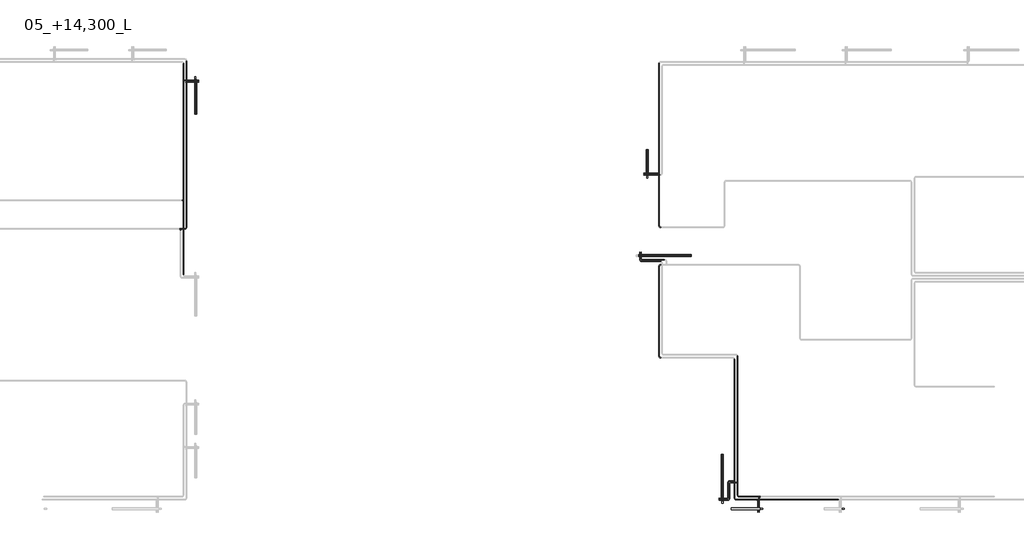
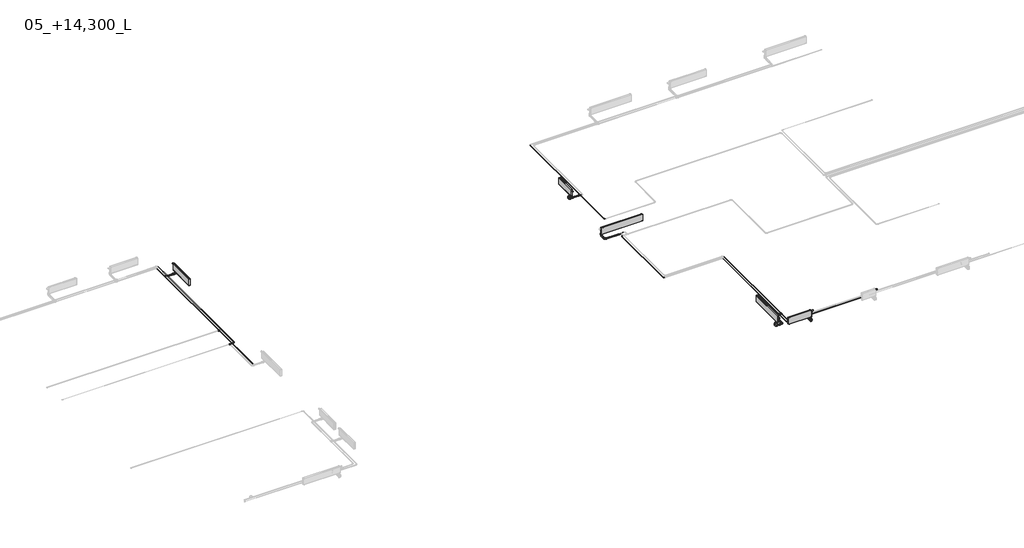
# One storey, part 6 of 15: 32 pipe segments, 31 pipe fittings, 5 proxies, 5 valves.
"""IFC4 building model written with IfcOpenShell, lengths in millimetres."""

from ifc_helpers import new_model, si_unit, point, frame, frame_2d, origin, place, context, project, spatial, circle_curve, trimmed, segment, composite_curve, outline, extrude, transform, mapped, element, save
from components import mechanical_equipment_c0c35615, mechanical_equipment_da64a6a1, mechanical_equipment_054ffeb9, mechanical_equipment_91f7fb6e, mechanical_equipment_6df30eec, pipe_fitting_44bd76dc, pipe_fitting_8f811e63, pipe_fitting_d927fdfb, valve_f5090433, valve_73842d38, valve_8453c3c0, valve_3b1922a4, valve_18af1cec

model = new_model("IFC4")

# Units and contexts
model_context = context("Model", 3, world=origin())
ifc_project = project(units=[si_unit("LENGTHUNIT", "METRE", prefix="MILLI")], contexts=[model_context])

# Site, building, storey
site = spatial("IfcSite", under=ifc_project)
building = spatial("IfcBuilding", under=site)
storey = spatial("IfcBuildingStorey", under=building, Name="05_+14,300_L", Elevation=14300.0)

# Proxies
placement = place(None, origin())
mechanical_equipment_shape = mechanical_equipment_c0c35615(model_context)
element("IfcBuildingElementProxy", 1, Name="EVRA CV Д : 21-300-1600", ObjectType="EVRA CV Д : 21-300-1600", at=placement, inside=storey, context=model_context, shape_type="MappedRepresentation", body=[
    mapped(mechanical_equipment_shape, transform((50061.4631102, 113460.2677163, 14300.0), x_axis=(0.0, 1.0, 0.0), y_axis=(-1.0, 0.0, 0.0), z_axis=(0.0, 0.0, 1.0))),
])
mechanical_equipment_2_shape = mechanical_equipment_da64a6a1(model_context)
element("IfcBuildingElementProxy", 2, Name="EVRA CV Д : 21-300-1200", ObjectType="EVRA CV Д : 21-300-1200", at=placement, inside=storey, context=model_context, shape_type="MappedRepresentation", body=[
    mapped(mechanical_equipment_2_shape, transform((31938.5368898, 127000.0, 14300.0), x_axis=(0.0, -1.0, 0.0), y_axis=(1.0, 0.0, 0.0), z_axis=(0.0, 0.0, 1.0))),
])
mechanical_equipment_3_shape = mechanical_equipment_054ffeb9(model_context)
element("IfcBuildingElementProxy", 3, Name="EVRA CV Д : 21-300-1000", ObjectType="EVRA CV Д : 21-300-1000", at=placement, inside=storey, context=model_context, shape_type="MappedRepresentation", body=[
    mapped(mechanical_equipment_3_shape, transform((51080.0, 112561.4631102, 14300.0), x_axis=(-1.0, 0.0, 0.0), y_axis=(0.0, -1.0, 0.0), z_axis=(0.0, 0.0, 1.0))),
])
mechanical_equipment_4_shape = mechanical_equipment_91f7fb6e(model_context)
element("IfcBuildingElementProxy", 4, Name="EVRA CV Д : 21-300-900", ObjectType="EVRA CV Д : 21-300-900", at=placement, inside=storey, context=model_context, shape_type="MappedRepresentation", body=[
    mapped(mechanical_equipment_4_shape, transform((47461.4631102, 124330.0000002, 14300.0), x_axis=(0.0, 1.0, 0.0), y_axis=(-1.0, 0.0, 0.0), z_axis=(0.0, 0.0, 1.0))),
])
mechanical_equipment_5_shape = mechanical_equipment_6df30eec(model_context)
element("IfcBuildingElementProxy", 5, Name="EVRA CV Д : 21-300-1800", ObjectType="EVRA CV Д : 21-300-1800", at=placement, inside=storey, context=model_context, shape_type="MappedRepresentation", body=[
    mapped(mechanical_equipment_5_shape, transform((47902.548164, 121338.53689, 14300.0), x_axis=(1.0, 0.0, 0.0), y_axis=(0.0, 1.0, 0.0), z_axis=(0.0, 0.0, 1.0))),
])

# Pipe fittings
pipe_fitting_shape = pipe_fitting_44bd76dc(model_context)
element("IfcPipeFitting", 6, ObjectType="ADSK_Пресс-фитинг ПЭ_Тройник : Пластик черный", at=placement, inside=storey, context=model_context, shape_type="MappedRepresentation", body=[
    mapped(pipe_fitting_shape, transform((31400.0000006, 122240.0, 14250.0), x_axis=(-1.0, 0.0, 0.0), y_axis=(0.0, 1.0, 0.0), z_axis=(0.0, 0.0, -1.0))),
])
element("IfcPipeFitting", 7, ObjectType="ADSK_Пресс-фитинг ПЭ_Тройник : Пластик черный", at=placement, inside=storey, context=model_context, shape_type="MappedRepresentation", body=[
    mapped(pipe_fitting_shape, transform((31600.0000006, 127320.0, 14250.0), x_axis=(0.0, -1.0, 0.0), y_axis=(-1.0, 0.0, 0.0), z_axis=(0.0, 0.0, -1.0))),
])
element("IfcPipeFitting", 8, ObjectType="ADSK_Пресс-фитинг ПЭ_Тройник : Пластик черный", at=placement, inside=storey, context=model_context, shape_type="MappedRepresentation", body=[
    mapped(pipe_fitting_shape, transform((31500.0000006, 127370.0, 14250.0), x_axis=(0.0, 1.0, 0.0), y_axis=(-1.0, 0.0, 0.0), z_axis=(0.0, 0.0, 1.0))),
])
element("IfcPipeFitting", 9, ObjectType="ADSK_Пресс-фитинг ПЭ_Тройник : Пластик черный", at=placement, inside=storey, context=model_context, shape_type="MappedRepresentation", body=[
    mapped(pipe_fitting_shape, transform((50499.9999998, 113540.2677163, 14250.0), x_axis=(0.0, -1.0, 0.0), y_axis=(1.0, 0.0, 0.0), z_axis=(0.0, 0.0, 1.0))),
])
element("IfcPipeFitting", 10, ObjectType="ADSK_Пресс-фитинг ПЭ_Тройник : Пластик черный", at=placement, inside=storey, context=model_context, shape_type="MappedRepresentation", body=[
    mapped(pipe_fitting_shape, transform((50599.9999998, 113490.2677163, 14250.0), x_axis=(0.0, -1.0, 0.0), y_axis=(1.0, 0.0, 0.0), z_axis=(0.0, 0.0, 1.0))),
])
element("IfcPipeFitting", 11, ObjectType="ADSK_Пресс-фитинг ПЭ_Тройник : Пластик черный", at=placement, inside=storey, context=model_context, shape_type="MappedRepresentation", body=[
    mapped(pipe_fitting_shape, transform((47900.0, 124160.0000002, 14250.0), x_axis=(0.0, 1.0, 0.0), y_axis=(1.0, 0.0, 0.0), z_axis=(0.0, 0.0, -1.0))),
])
element("IfcPipeFitting", 12, ObjectType="ADSK_Пресс-фитинг ПЭ_Тройник : Пластик черный", at=placement, inside=storey, context=model_context, shape_type="MappedRepresentation", body=[
    mapped(pipe_fitting_shape, transform((51350.0, 113000.0, 14250.0), x_axis=(1.0, 0.0, 0.0), y_axis=(0.0, 1.0, 0.0), z_axis=(0.0, 0.0, 1.0))),
])
element("IfcPipeFitting", 13, ObjectType="ADSK_Пресс-фитинг ПЭ_Тройник : Пластик черный", at=placement, inside=storey, context=model_context, shape_type="MappedRepresentation", body=[
    mapped(pipe_fitting_shape, transform((51300.0, 112900.0, 14250.0), x_axis=(1.0, 0.0, 0.0), y_axis=(0.0, 1.0, 0.0), z_axis=(0.0, 0.0, 1.0))),
])
element("IfcPipeFitting", 14, ObjectType="ADSK_Пресс-фитинг ПЭ_Тройник : Пластик черный", at=placement, inside=storey, context=model_context, shape_type="MappedRepresentation", body=[
    mapped(pipe_fitting_shape, transform((31500.0000006, 123228.4031807, 14250.0), x_axis=(0.0, 1.0, 0.0), y_axis=(1.0, 0.0, 0.0), z_axis=(0.0, 0.0, -1.0))),
])
pipe_fitting_2_shape = pipe_fitting_8f811e63(model_context)
element("IfcPipeFitting", 15, ObjectType="ADSK_Пресс-фитинг ПЭ_Поворот с фиксатором : Поворот трубы", at=placement, inside=storey, context=model_context, shape_type="MappedRepresentation", body=[
    mapped(pipe_fitting_2_shape, transform((31600.0000006, 122240.0, 14250.0), x_axis=(1.0, 0.0, 0.0), y_axis=(0.0, 1.0, 0.0), z_axis=(0.0, 0.0, 1.0))),
])
element("IfcPipeFitting", 16, ObjectType="ADSK_Пресс-фитинг ПЭ_Поворот с фиксатором : Поворот трубы", at=placement, inside=storey, context=model_context, shape_type="MappedRepresentation", body=[
    mapped(pipe_fitting_2_shape, transform((50599.9999998, 113000.0, 14250.0), x_axis=(0.0, -1.0, 0.0), y_axis=(1.0, 0.0, 0.0), z_axis=(0.0, 0.0, 1.0))),
])
element("IfcPipeFitting", 17, ObjectType="ADSK_Пресс-фитинг ПЭ_Поворот с фиксатором : Поворот трубы", at=placement, inside=storey, context=model_context, shape_type="MappedRepresentation", body=[
    mapped(pipe_fitting_2_shape, transform((50499.9999998, 112900.0, 14250.0), x_axis=(0.0, -1.0, 0.0), y_axis=(1.0, 0.0, 0.0), z_axis=(0.0, 0.0, 1.0))),
])
element("IfcPipeFitting", 18, ObjectType="ADSK_Пресс-фитинг ПЭ_Поворот с фиксатором : Поворот трубы", at=placement, inside=storey, context=model_context, shape_type="MappedRepresentation", body=[
    mapped(pipe_fitting_2_shape, transform((50277.0, 113540.2677163, 14250.0), x_axis=(-1.0, 0.0, 0.0), y_axis=(0.0, -1.0, 0.0), z_axis=(0.0, 0.0, 1.0))),
])
element("IfcPipeFitting", 19, ObjectType="ADSK_Пресс-фитинг ПЭ_Поворот с фиксатором : Поворот трубы", at=placement, inside=storey, context=model_context, shape_type="MappedRepresentation", body=[
    mapped(pipe_fitting_2_shape, transform((50327.0, 113490.2677163, 14250.0), x_axis=(-1.0, 0.0, 0.0), y_axis=(0.0, -1.0, 0.0), z_axis=(0.0, 0.0, 1.0))),
])
element("IfcPipeFitting", 20, ObjectType="ADSK_Пресс-фитинг ПЭ_Поворот с фиксатором : Поворот трубы", at=placement, inside=storey, context=model_context, shape_type="MappedRepresentation", body=[
    mapped(pipe_fitting_2_shape, transform((47900.0, 122300.0, 14250.0), x_axis=(0.0, -1.0, 0.0), y_axis=(1.0, 0.0, 0.0), z_axis=(0.0, 0.0, 1.0))),
])
element("IfcPipeFitting", 21, ObjectType="ADSK_Пресс-фитинг ПЭ_Поворот с фиксатором : Поворот трубы", at=placement, inside=storey, context=model_context, shape_type="MappedRepresentation", body=[
    mapped(pipe_fitting_2_shape, transform((47900.0, 121000.0000002, 14250.0), x_axis=(-1.0, 0.0, 0.0), y_axis=(0.0, -1.0, 0.0), z_axis=(0.0, 0.0, 1.0))),
])
element("IfcPipeFitting", 22, ObjectType="ADSK_Пресс-фитинг ПЭ_Поворот с фиксатором : Поворот трубы", at=placement, inside=storey, context=model_context, shape_type="MappedRepresentation", body=[
    mapped(pipe_fitting_2_shape, transform((47282.548164, 121173.0000002, 14250.0), x_axis=(0.0, -1.0, 0.0), y_axis=(1.0, 0.0, 0.0), z_axis=(0.0, 0.0, 1.0))),
])
element("IfcPipeFitting", 23, ObjectType="ADSK_Пресс-фитинг ПЭ_Поворот с фиксатором : Поворот трубы", at=placement, inside=storey, context=model_context, shape_type="MappedRepresentation", body=[
    mapped(pipe_fitting_2_shape, transform((47232.548164, 121123.0000002, 14250.0), x_axis=(0.0, -1.0, 0.0), y_axis=(1.0, 0.0, 0.0), z_axis=(0.0, 0.0, 1.0))),
])
element("IfcPipeFitting", 24, ObjectType="ADSK_Пресс-фитинг ПЭ_Поворот с фиксатором : Поворот трубы", at=placement, inside=storey, context=model_context, shape_type="MappedRepresentation", body=[
    mapped(pipe_fitting_2_shape, transform((47900.0, 117800.0000002, 14250.0), x_axis=(0.0, -1.0, 0.0), y_axis=(1.0, 0.0, 0.0), z_axis=(0.0, 0.0, 1.0))),
])
element("IfcPipeFitting", 25, ObjectType="ADSK_Пресс-фитинг ПЭ_Поворот с фиксатором : Поворот трубы", at=placement, inside=storey, context=model_context, shape_type="MappedRepresentation", body=[
    mapped(pipe_fitting_2_shape, transform((50277.0, 112940.2677163, 14250.0), x_axis=(1.0, 0.0, 0.0), y_axis=(0.0, 1.0, 0.0), z_axis=(0.0, 0.0, 1.0))),
])
element("IfcPipeFitting", 26, ObjectType="ADSK_Пресс-фитинг ПЭ_Поворот с фиксатором : Поворот трубы", at=placement, inside=storey, context=model_context, shape_type="MappedRepresentation", body=[
    mapped(pipe_fitting_2_shape, transform((50327.0, 112890.2677163, 14250.0), x_axis=(1.0, 0.0, 0.0), y_axis=(0.0, 1.0, 0.0), z_axis=(0.0, 0.0, 1.0))),
])
pipe_fitting_3_shape = pipe_fitting_d927fdfb(model_context)
element("IfcPipeFitting", 27, ObjectType="Трубка Г-образная VTm.481.PC из стены : VTm.481.PC", at=placement, inside=storey, context=model_context, shape_type="MappedRepresentation", body=[
    mapped(pipe_fitting_3_shape, transform((31988.0, 127370.0, 14250.0), x_axis=(0.0, -1.0, 0.0), y_axis=(1.0, 0.0, 0.0), z_axis=(0.0, 0.0, 1.0))),
])
element("IfcPipeFitting", 28, ObjectType="Трубка Г-образная VTm.481.PC из стены : VTm.481.PC", at=placement, inside=storey, context=model_context, shape_type="MappedRepresentation", body=[
    mapped(pipe_fitting_3_shape, transform((51350.0, 112512.0, 14250.0), x_axis=(-1.0, 0.0, 0.0), y_axis=(0.0, -1.0, 0.0), z_axis=(0.0, 0.0, 1.0))),
])
element("IfcPipeFitting", 29, ObjectType="Трубка Г-образная VTm.481.PC из стены : VTm.481.PC", at=placement, inside=storey, context=model_context, shape_type="MappedRepresentation", body=[
    mapped(pipe_fitting_3_shape, transform((50012.0, 112890.2677163, 14250.0), x_axis=(0.0, 1.0, 0.0), y_axis=(-1.0, 0.0, 0.0), z_axis=(0.0, 0.0, 1.0))),
])
element("IfcPipeFitting", 30, ObjectType="Трубка Г-образная VTm.481.PC из стены : VTm.481.PC", at=placement, inside=storey, context=model_context, shape_type="MappedRepresentation", body=[
    mapped(pipe_fitting_3_shape, transform((47232.548164, 121388.0000002, 14250.0), x_axis=(1.0, 0.0, 0.0), y_axis=(0.0, 1.0, 0.0), z_axis=(0.0, 0.0, 1.0))),
])
element("IfcPipeFitting", 31, ObjectType="Трубка Г-образная VTm.481.PC из стены : VTm.481.PC", at=placement, inside=storey, context=model_context, shape_type="MappedRepresentation", body=[
    mapped(pipe_fitting_3_shape, transform((47412.0, 124110.0000002, 14250.0), x_axis=(0.0, 1.0, 0.0), y_axis=(-1.0, 0.0, 0.0), z_axis=(0.0, 0.0, 1.0))),
])
element("IfcPipeFitting", 32, ObjectType="Трубка Г-образная VTm.481.PC из стены : VTm.481.PC", at=placement, inside=storey, context=model_context, shape_type="MappedRepresentation", body=[
    mapped(pipe_fitting_3_shape, transform((31988.0, 127320.0, 14250.0), x_axis=(0.0, -1.0, 0.0), y_axis=(1.0, 0.0, 0.0), z_axis=(0.0, 0.0, 1.0))),
])
element("IfcPipeFitting", 33, ObjectType="Трубка Г-образная VTm.481.PC из стены : VTm.481.PC", at=placement, inside=storey, context=model_context, shape_type="MappedRepresentation", body=[
    mapped(pipe_fitting_3_shape, transform((51300.0, 112512.0, 14250.0), x_axis=(-1.0, 0.0, 0.0), y_axis=(0.0, -1.0, 0.0), z_axis=(0.0, 0.0, 1.0))),
])
element("IfcPipeFitting", 34, ObjectType="Трубка Г-образная VTm.481.PC из стены : VTm.481.PC", at=placement, inside=storey, context=model_context, shape_type="MappedRepresentation", body=[
    mapped(pipe_fitting_3_shape, transform((50012.0, 112940.2677163, 14250.0), x_axis=(0.0, 1.0, 0.0), y_axis=(-1.0, 0.0, 0.0), z_axis=(0.0, 0.0, 1.0))),
])
element("IfcPipeFitting", 35, ObjectType="Трубка Г-образная VTm.481.PC из стены : VTm.481.PC", at=placement, inside=storey, context=model_context, shape_type="MappedRepresentation", body=[
    mapped(pipe_fitting_3_shape, transform((47282.548164, 121388.0000002, 14250.0), x_axis=(1.0, 0.0, 0.0), y_axis=(0.0, 1.0, 0.0), z_axis=(0.0, 0.0, 1.0))),
])
element("IfcPipeFitting", 36, ObjectType="Трубка Г-образная VTm.481.PC из стены : VTm.481.PC", at=placement, inside=storey, context=model_context, shape_type="MappedRepresentation", body=[
    mapped(pipe_fitting_3_shape, transform((47412.0, 124160.0000002, 14250.0), x_axis=(0.0, 1.0, 0.0), y_axis=(-1.0, 0.0, 0.0), z_axis=(0.0, 0.0, 1.0))),
])

# Pipe segments
element("IfcPipeSegment", 37, ObjectType="ADSK_Полиэтилен сшитый", at=placement, inside=storey, context=model_context, shape_type="SweptSolid", body=[
    extrude(outline(composite_curve([segment(trimmed(circle_curve(frame_2d((14250.0, 31600.0000006)), 8.0), [point((14250.0, 31608.0000006))], [point((14258.0, 31600.0000006))], False, "CARTESIAN"), True, "CONTINUOUS"), segment(trimmed(circle_curve(frame_2d((14250.0, 31600.0000006)), 8.0), [point((14258.0, 31600.0000006))], [point((14250.0, 31592.0000006))], False, "CARTESIAN"), True, "CONTINUOUS"), segment(trimmed(circle_curve(frame_2d((14250.0, 31600.0000006)), 8.0), [point((14250.0, 31592.0000006))], [point((14242.0, 31600.0000006))], False, "CARTESIAN"), True, "CONTINUOUS"), segment(trimmed(circle_curve(frame_2d((14250.0, 31600.0000006)), 8.0), [point((14242.0, 31600.0000006))], [point((14250.0, 31608.0000006))], False, "CARTESIAN"), True, "CONTINUOUS")], self_intersect=False)), frame((0.0, 127340.0, 0.0), z_axis=(0.0, 1.0, 0.0), x_axis=(0.0, 0.0, 1.0)), (0.0, 0.0, 1.0), 712.0),
])
element("IfcPipeSegment", 38, ObjectType="ADSK_Полиэтилен сшитый", at=placement, inside=storey, context=model_context, shape_type="SweptSolid", body=[
    extrude(outline(composite_curve([segment(trimmed(circle_curve(frame_2d((122240.0, 14250.0)), 8.0), [point((122232.0, 14250.0))], [point((122240.0, 14258.0))], False, "CARTESIAN"), True, "CONTINUOUS"), segment(trimmed(circle_curve(frame_2d((122240.0, 14250.0)), 8.0), [point((122240.0, 14258.0))], [point((122248.0, 14250.0))], False, "CARTESIAN"), True, "CONTINUOUS"), segment(trimmed(circle_curve(frame_2d((122240.0, 14250.0)), 8.0), [point((122248.0, 14250.0))], [point((122240.0, 14242.0))], False, "CARTESIAN"), True, "CONTINUOUS"), segment(trimmed(circle_curve(frame_2d((122240.0, 14250.0)), 8.0), [point((122240.0, 14242.0))], [point((122232.0, 14250.0))], False, "CARTESIAN"), True, "CONTINUOUS")], self_intersect=False)), frame((31420.0000006, 0.0, 0.0), z_axis=(1.0, 0.0, 0.0), x_axis=(0.0, 1.0, 0.0)), (0.0, 0.0, 1.0), 132.0),
])
element("IfcPipeSegment", 39, ObjectType="ADSK_Полиэтилен сшитый", at=placement, inside=storey, context=model_context, shape_type="SweptSolid", body=[
    extrude(outline(composite_curve([segment(trimmed(circle_curve(frame_2d((14250.0, 31500.0000006)), 8.0), [point((14250.0, 31492.0000006))], [point((14242.0, 31500.0000006))], False, "CARTESIAN"), True, "CONTINUOUS"), segment(trimmed(circle_curve(frame_2d((14250.0, 31500.0000006)), 8.0), [point((14242.0, 31500.0000006))], [point((14250.0, 31508.0000006))], False, "CARTESIAN"), True, "CONTINUOUS"), segment(trimmed(circle_curve(frame_2d((14250.0, 31500.0000006)), 8.0), [point((14250.0, 31508.0000006))], [point((14258.0, 31500.0000006))], False, "CARTESIAN"), True, "CONTINUOUS"), segment(trimmed(circle_curve(frame_2d((14250.0, 31500.0000006)), 8.0), [point((14258.0, 31500.0000006))], [point((14250.0, 31492.0000006))], False, "CARTESIAN"), True, "CONTINUOUS")], self_intersect=False)), frame((0.0, 120658.0000002, 0.0), z_axis=(0.0, 1.0, 0.0), x_axis=(0.0, 0.0, 1.0)), (0.0, 0.0, 1.0), 2548.4031805),
])
element("IfcPipeSegment", 40, ObjectType="ADSK_Полиэтилен сшитый", at=placement, inside=storey, context=model_context, shape_type="SweptSolid", body=[
    extrude(outline(composite_curve([segment(trimmed(circle_curve(frame_2d((127320.0, 14250.0)), 8.0), [point((127312.0, 14250.0))], [point((127320.0, 14258.0))], False, "CARTESIAN"), True, "CONTINUOUS"), segment(trimmed(circle_curve(frame_2d((127320.0, 14250.0)), 8.0), [point((127320.0, 14258.0))], [point((127328.0, 14250.0))], False, "CARTESIAN"), True, "CONTINUOUS"), segment(trimmed(circle_curve(frame_2d((127320.0, 14250.0)), 8.0), [point((127328.0, 14250.0))], [point((127320.0, 14242.0))], False, "CARTESIAN"), True, "CONTINUOUS"), segment(trimmed(circle_curve(frame_2d((127320.0, 14250.0)), 8.0), [point((127320.0, 14242.0))], [point((127312.0, 14250.0))], False, "CARTESIAN"), True, "CONTINUOUS")], self_intersect=False)), frame((31624.0000006, 0.0, 0.0), z_axis=(1.0, 0.0, 0.0), x_axis=(0.0, 1.0, 0.0)), (0.0, 0.0, 1.0), 248.9999994),
])
element("IfcPipeSegment", 41, ObjectType="ADSK_Полиэтилен сшитый", at=placement, inside=storey, context=model_context, shape_type="SweptSolid", body=[
    extrude(outline(composite_curve([segment(trimmed(circle_curve(frame_2d((14250.0, 31600.0000006)), 8.0), [point((14250.0, 31608.0000006))], [point((14258.0, 31600.0000006))], False, "CARTESIAN"), True, "CONTINUOUS"), segment(trimmed(circle_curve(frame_2d((14250.0, 31600.0000006)), 8.0), [point((14258.0, 31600.0000006))], [point((14250.0, 31592.0000006))], False, "CARTESIAN"), True, "CONTINUOUS"), segment(trimmed(circle_curve(frame_2d((14250.0, 31600.0000006)), 8.0), [point((14250.0, 31592.0000006))], [point((14242.0, 31600.0000006))], False, "CARTESIAN"), True, "CONTINUOUS"), segment(trimmed(circle_curve(frame_2d((14250.0, 31600.0000006)), 8.0), [point((14242.0, 31600.0000006))], [point((14250.0, 31608.0000006))], False, "CARTESIAN"), True, "CONTINUOUS")], self_intersect=False)), frame((0.0, 122288.0, 0.0), z_axis=(0.0, 1.0, 0.0), x_axis=(0.0, 0.0, 1.0)), (0.0, 0.0, 1.0), 5012.0),
])
element("IfcPipeSegment", 42, ObjectType="ADSK_Полиэтилен сшитый", at=placement, inside=storey, context=model_context, shape_type="SweptSolid", body=[
    extrude(outline(composite_curve([segment(trimmed(circle_curve(frame_2d((127370.0, 14250.0)), 8.0), [point((127362.0, 14250.0))], [point((127370.0, 14258.0))], False, "CARTESIAN"), True, "CONTINUOUS"), segment(trimmed(circle_curve(frame_2d((127370.0, 14250.0)), 8.0), [point((127370.0, 14258.0))], [point((127378.0, 14250.0))], False, "CARTESIAN"), True, "CONTINUOUS"), segment(trimmed(circle_curve(frame_2d((127370.0, 14250.0)), 8.0), [point((127378.0, 14250.0))], [point((127370.0, 14242.0))], False, "CARTESIAN"), True, "CONTINUOUS"), segment(trimmed(circle_curve(frame_2d((127370.0, 14250.0)), 8.0), [point((127370.0, 14242.0))], [point((127362.0, 14250.0))], False, "CARTESIAN"), True, "CONTINUOUS")], self_intersect=False)), frame((31524.0000006, 0.0, 0.0), z_axis=(1.0, 0.0, 0.0), x_axis=(0.0, 1.0, 0.0)), (0.0, 0.0, 1.0), 348.9999994),
])
element("IfcPipeSegment", 43, ObjectType="ADSK_Полиэтилен сшитый", at=placement, inside=storey, context=model_context, shape_type="SweptSolid", body=[
    extrude(outline(composite_curve([segment(trimmed(circle_curve(frame_2d((14250.0, 31500.0000006)), 8.0), [point((14250.0, 31492.0000006))], [point((14242.0, 31500.0000006))], False, "CARTESIAN"), True, "CONTINUOUS"), segment(trimmed(circle_curve(frame_2d((14250.0, 31500.0000006)), 8.0), [point((14242.0, 31500.0000006))], [point((14250.0, 31508.0000006))], False, "CARTESIAN"), True, "CONTINUOUS"), segment(trimmed(circle_curve(frame_2d((14250.0, 31500.0000006)), 8.0), [point((14250.0, 31508.0000006))], [point((14258.0, 31500.0000006))], False, "CARTESIAN"), True, "CONTINUOUS"), segment(trimmed(circle_curve(frame_2d((14250.0, 31500.0000006)), 8.0), [point((14258.0, 31500.0000006))], [point((14250.0, 31492.0000006))], False, "CARTESIAN"), True, "CONTINUOUS")], self_intersect=False)), frame((0.0, 127390.0, 0.0), z_axis=(0.0, 1.0, 0.0), x_axis=(0.0, 0.0, 1.0)), (0.0, 0.0, 1.0), 562.0),
])
element("IfcPipeSegment", 44, ObjectType="ADSK_Полиэтилен сшитый", at=placement, inside=storey, context=model_context, shape_type="SweptSolid", body=[
    extrude(outline(composite_curve([segment(trimmed(circle_curve(frame_2d((14250.0, 50499.9999998)), 8.0), [point((14250.0, 50491.9999998))], [point((14242.0, 50499.9999998))], False, "CARTESIAN"), True, "CONTINUOUS"), segment(trimmed(circle_curve(frame_2d((14250.0, 50499.9999998)), 8.0), [point((14242.0, 50499.9999998))], [point((14250.0, 50507.9999998))], False, "CARTESIAN"), True, "CONTINUOUS"), segment(trimmed(circle_curve(frame_2d((14250.0, 50499.9999998)), 8.0), [point((14250.0, 50507.9999998))], [point((14258.0, 50499.9999998))], False, "CARTESIAN"), True, "CONTINUOUS"), segment(trimmed(circle_curve(frame_2d((14250.0, 50499.9999998)), 8.0), [point((14258.0, 50499.9999998))], [point((14250.0, 50491.9999998))], False, "CARTESIAN"), True, "CONTINUOUS")], self_intersect=False)), frame((0.0, 112948.0, 0.0), z_axis=(0.0, 1.0, 0.0), x_axis=(0.0, 0.0, 1.0)), (0.0, 0.0, 1.0), 573.2677163),
])
element("IfcPipeSegment", 45, ObjectType="ADSK_Полиэтилен сшитый", at=placement, inside=storey, context=model_context, shape_type="SweptSolid", body=[
    extrude(outline(composite_curve([segment(trimmed(circle_curve(frame_2d((14250.0, 47900.0)), 8.0), [point((14250.0, 47892.0))], [point((14242.0, 47900.0))], False, "CARTESIAN"), True, "CONTINUOUS"), segment(trimmed(circle_curve(frame_2d((14250.0, 47900.0)), 8.0), [point((14242.0, 47900.0))], [point((14250.0, 47908.0))], False, "CARTESIAN"), True, "CONTINUOUS"), segment(trimmed(circle_curve(frame_2d((14250.0, 47900.0)), 8.0), [point((14250.0, 47908.0))], [point((14258.0, 47900.0))], False, "CARTESIAN"), True, "CONTINUOUS"), segment(trimmed(circle_curve(frame_2d((14250.0, 47900.0)), 8.0), [point((14258.0, 47900.0))], [point((14250.0, 47892.0))], False, "CARTESIAN"), True, "CONTINUOUS")], self_intersect=False)), frame((0.0, 122348.0, 0.0), z_axis=(0.0, 1.0, 0.0), x_axis=(0.0, 0.0, 1.0)), (0.0, 0.0, 1.0), 1792.0000002),
])
element("IfcPipeSegment", 46, ObjectType="ADSK_Полиэтилен сшитый", at=placement, inside=storey, context=model_context, shape_type="SweptSolid", body=[
    extrude(outline(composite_curve([segment(trimmed(circle_curve(frame_2d((14250.0, 51350.0)), 8.0), [point((14250.0, 51342.0))], [point((14242.0, 51350.0))], False, "CARTESIAN"), True, "CONTINUOUS"), segment(trimmed(circle_curve(frame_2d((14250.0, 51350.0)), 8.0), [point((14242.0, 51350.0))], [point((14250.0, 51358.0))], False, "CARTESIAN"), True, "CONTINUOUS"), segment(trimmed(circle_curve(frame_2d((14250.0, 51350.0)), 8.0), [point((14250.0, 51358.0))], [point((14258.0, 51350.0))], False, "CARTESIAN"), True, "CONTINUOUS"), segment(trimmed(circle_curve(frame_2d((14250.0, 51350.0)), 8.0), [point((14258.0, 51350.0))], [point((14250.0, 51342.0))], False, "CARTESIAN"), True, "CONTINUOUS")], self_intersect=False)), frame((0.0, 112627.0, 0.0), z_axis=(0.0, 1.0, 0.0), x_axis=(0.0, 0.0, 1.0)), (0.0, 0.0, 1.0), 349.0),
])
element("IfcPipeSegment", 47, ObjectType="ADSK_Полиэтилен сшитый", at=placement, inside=storey, context=model_context, shape_type="SweptSolid", body=[
    extrude(outline(composite_curve([segment(trimmed(circle_curve(frame_2d((113000.0, 14250.0)), 8.0), [point((113008.0, 14250.0))], [point((113000.0, 14242.0))], False, "CARTESIAN"), True, "CONTINUOUS"), segment(trimmed(circle_curve(frame_2d((113000.0, 14250.0)), 8.0), [point((113000.0, 14242.0))], [point((112992.0, 14250.0))], False, "CARTESIAN"), True, "CONTINUOUS"), segment(trimmed(circle_curve(frame_2d((113000.0, 14250.0)), 8.0), [point((112992.0, 14250.0))], [point((113000.0, 14258.0))], False, "CARTESIAN"), True, "CONTINUOUS"), segment(trimmed(circle_curve(frame_2d((113000.0, 14250.0)), 8.0), [point((113000.0, 14258.0))], [point((113008.0, 14250.0))], False, "CARTESIAN"), True, "CONTINUOUS")], self_intersect=False)), frame((50647.9999998, 0.0, 0.0), z_axis=(1.0, 0.0, 0.0), x_axis=(0.0, 1.0, 0.0)), (0.0, 0.0, 1.0), 682.0000002),
])
element("IfcPipeSegment", 48, ObjectType="ADSK_Полиэтилен сшитый", at=placement, inside=storey, context=model_context, shape_type="SweptSolid", body=[
    extrude(outline(composite_curve([segment(trimmed(circle_curve(frame_2d((14250.0, 51300.0)), 8.0), [point((14250.0, 51292.0))], [point((14242.0, 51300.0))], False, "CARTESIAN"), True, "CONTINUOUS"), segment(trimmed(circle_curve(frame_2d((14250.0, 51300.0)), 8.0), [point((14242.0, 51300.0))], [point((14250.0, 51308.0))], False, "CARTESIAN"), True, "CONTINUOUS"), segment(trimmed(circle_curve(frame_2d((14250.0, 51300.0)), 8.0), [point((14250.0, 51308.0))], [point((14258.0, 51300.0))], False, "CARTESIAN"), True, "CONTINUOUS"), segment(trimmed(circle_curve(frame_2d((14250.0, 51300.0)), 8.0), [point((14258.0, 51300.0))], [point((14250.0, 51292.0))], False, "CARTESIAN"), True, "CONTINUOUS")], self_intersect=False)), frame((0.0, 112627.0, 0.0), z_axis=(0.0, 1.0, 0.0), x_axis=(0.0, 0.0, 1.0)), (0.0, 0.0, 1.0), 249.0),
])
element("IfcPipeSegment", 49, ObjectType="ADSK_Полиэтилен сшитый", at=placement, inside=storey, context=model_context, shape_type="SweptSolid", body=[
    extrude(outline(composite_curve([segment(trimmed(circle_curve(frame_2d((112940.2677163, 14250.0)), 8.0), [point((112948.2677163, 14250.0))], [point((112940.2677163, 14242.0))], False, "CARTESIAN"), True, "CONTINUOUS"), segment(trimmed(circle_curve(frame_2d((112940.2677163, 14250.0)), 8.0), [point((112940.2677163, 14242.0))], [point((112932.2677163, 14250.0))], False, "CARTESIAN"), True, "CONTINUOUS"), segment(trimmed(circle_curve(frame_2d((112940.2677163, 14250.0)), 8.0), [point((112932.2677163, 14250.0))], [point((112940.2677163, 14258.0))], False, "CARTESIAN"), True, "CONTINUOUS"), segment(trimmed(circle_curve(frame_2d((112940.2677163, 14250.0)), 8.0), [point((112940.2677163, 14258.0))], [point((112948.2677163, 14250.0))], False, "CARTESIAN"), True, "CONTINUOUS")], self_intersect=False)), frame((50127.0, 0.0, 0.0), z_axis=(1.0, 0.0, 0.0), x_axis=(0.0, 1.0, 0.0)), (0.0, 0.0, 1.0), 102.0),
])
element("IfcPipeSegment", 50, ObjectType="ADSK_Полиэтилен сшитый", at=placement, inside=storey, context=model_context, shape_type="SweptSolid", body=[
    extrude(outline(composite_curve([segment(trimmed(circle_curve(frame_2d((14250.0, 50277.0)), 8.0), [point((14250.0, 50285.0))], [point((14258.0, 50277.0))], False, "CARTESIAN"), True, "CONTINUOUS"), segment(trimmed(circle_curve(frame_2d((14250.0, 50277.0)), 8.0), [point((14258.0, 50277.0))], [point((14250.0, 50269.0))], False, "CARTESIAN"), True, "CONTINUOUS"), segment(trimmed(circle_curve(frame_2d((14250.0, 50277.0)), 8.0), [point((14250.0, 50269.0))], [point((14242.0, 50277.0))], False, "CARTESIAN"), True, "CONTINUOUS"), segment(trimmed(circle_curve(frame_2d((14250.0, 50277.0)), 8.0), [point((14242.0, 50277.0))], [point((14250.0, 50285.0))], False, "CARTESIAN"), True, "CONTINUOUS")], self_intersect=False)), frame((0.0, 112988.2677163, 0.0), z_axis=(0.0, 1.0, 0.0), x_axis=(0.0, 0.0, 1.0)), (0.0, 0.0, 1.0), 504.0),
])
element("IfcPipeSegment", 51, ObjectType="ADSK_Полиэтилен сшитый", at=placement, inside=storey, context=model_context, shape_type="SweptSolid", body=[
    extrude(outline(composite_curve([segment(trimmed(circle_curve(frame_2d((113540.2677163, 14250.0)), 8.0), [point((113548.2677163, 14250.0))], [point((113540.2677163, 14242.0))], False, "CARTESIAN"), True, "CONTINUOUS"), segment(trimmed(circle_curve(frame_2d((113540.2677163, 14250.0)), 8.0), [point((113540.2677163, 14242.0))], [point((113532.2677163, 14250.0))], False, "CARTESIAN"), True, "CONTINUOUS"), segment(trimmed(circle_curve(frame_2d((113540.2677163, 14250.0)), 8.0), [point((113532.2677163, 14250.0))], [point((113540.2677163, 14258.0))], False, "CARTESIAN"), True, "CONTINUOUS"), segment(trimmed(circle_curve(frame_2d((113540.2677163, 14250.0)), 8.0), [point((113540.2677163, 14258.0))], [point((113548.2677163, 14250.0))], False, "CARTESIAN"), True, "CONTINUOUS")], self_intersect=False)), frame((50325.0, 0.0, 0.0), z_axis=(1.0, 0.0, 0.0), x_axis=(0.0, 1.0, 0.0)), (0.0, 0.0, 1.0), 148.9999998),
])
element("IfcPipeSegment", 52, ObjectType="ADSK_Полиэтилен сшитый", at=placement, inside=storey, context=model_context, shape_type="SweptSolid", body=[
    extrude(outline(composite_curve([segment(trimmed(circle_curve(frame_2d((112890.2677163, 14250.0)), 8.0), [point((112898.2677163, 14250.0))], [point((112890.2677163, 14242.0))], False, "CARTESIAN"), True, "CONTINUOUS"), segment(trimmed(circle_curve(frame_2d((112890.2677163, 14250.0)), 8.0), [point((112890.2677163, 14242.0))], [point((112882.2677163, 14250.0))], False, "CARTESIAN"), True, "CONTINUOUS"), segment(trimmed(circle_curve(frame_2d((112890.2677163, 14250.0)), 8.0), [point((112882.2677163, 14250.0))], [point((112890.2677163, 14258.0))], False, "CARTESIAN"), True, "CONTINUOUS"), segment(trimmed(circle_curve(frame_2d((112890.2677163, 14250.0)), 8.0), [point((112890.2677163, 14258.0))], [point((112898.2677163, 14250.0))], False, "CARTESIAN"), True, "CONTINUOUS")], self_intersect=False)), frame((50127.0, 0.0, 0.0), z_axis=(1.0, 0.0, 0.0), x_axis=(0.0, 1.0, 0.0)), (0.0, 0.0, 1.0), 152.0),
])
element("IfcPipeSegment", 53, ObjectType="ADSK_Полиэтилен сшитый", at=placement, inside=storey, context=model_context, shape_type="SweptSolid", body=[
    extrude(outline(composite_curve([segment(trimmed(circle_curve(frame_2d((14250.0, 50327.0)), 8.0), [point((14250.0, 50335.0))], [point((14258.0, 50327.0))], False, "CARTESIAN"), True, "CONTINUOUS"), segment(trimmed(circle_curve(frame_2d((14250.0, 50327.0)), 8.0), [point((14258.0, 50327.0))], [point((14250.0, 50319.0))], False, "CARTESIAN"), True, "CONTINUOUS"), segment(trimmed(circle_curve(frame_2d((14250.0, 50327.0)), 8.0), [point((14250.0, 50319.0))], [point((14242.0, 50327.0))], False, "CARTESIAN"), True, "CONTINUOUS"), segment(trimmed(circle_curve(frame_2d((14250.0, 50327.0)), 8.0), [point((14242.0, 50327.0))], [point((14250.0, 50335.0))], False, "CARTESIAN"), True, "CONTINUOUS")], self_intersect=False)), frame((0.0, 112938.2677163, 0.0), z_axis=(0.0, 1.0, 0.0), x_axis=(0.0, 0.0, 1.0)), (0.0, 0.0, 1.0), 504.0),
])
element("IfcPipeSegment", 54, ObjectType="ADSK_Полиэтилен сшитый", at=placement, inside=storey, context=model_context, shape_type="SweptSolid", body=[
    extrude(outline(composite_curve([segment(trimmed(circle_curve(frame_2d((113490.2677163, 14250.0)), 8.0), [point((113498.2677163, 14250.0))], [point((113490.2677163, 14242.0))], False, "CARTESIAN"), True, "CONTINUOUS"), segment(trimmed(circle_curve(frame_2d((113490.2677163, 14250.0)), 8.0), [point((113490.2677163, 14242.0))], [point((113482.2677163, 14250.0))], False, "CARTESIAN"), True, "CONTINUOUS"), segment(trimmed(circle_curve(frame_2d((113490.2677163, 14250.0)), 8.0), [point((113482.2677163, 14250.0))], [point((113490.2677163, 14258.0))], False, "CARTESIAN"), True, "CONTINUOUS"), segment(trimmed(circle_curve(frame_2d((113490.2677163, 14250.0)), 8.0), [point((113490.2677163, 14258.0))], [point((113498.2677163, 14250.0))], False, "CARTESIAN"), True, "CONTINUOUS")], self_intersect=False)), frame((50375.0, 0.0, 0.0), z_axis=(1.0, 0.0, 0.0), x_axis=(0.0, 1.0, 0.0)), (0.0, 0.0, 1.0), 198.9999998),
])
element("IfcPipeSegment", 55, ObjectType="ADSK_Полиэтилен сшитый", at=placement, inside=storey, context=model_context, shape_type="SweptSolid", body=[
    extrude(outline(composite_curve([segment(trimmed(circle_curve(frame_2d((14250.0, 50599.9999998)), 8.0), [point((14250.0, 50607.9999998))], [point((14258.0, 50599.9999998))], False, "CARTESIAN"), True, "CONTINUOUS"), segment(trimmed(circle_curve(frame_2d((14250.0, 50599.9999998)), 8.0), [point((14258.0, 50599.9999998))], [point((14250.0, 50591.9999998))], False, "CARTESIAN"), True, "CONTINUOUS"), segment(trimmed(circle_curve(frame_2d((14250.0, 50599.9999998)), 8.0), [point((14250.0, 50591.9999998))], [point((14242.0, 50599.9999998))], False, "CARTESIAN"), True, "CONTINUOUS"), segment(trimmed(circle_curve(frame_2d((14250.0, 50599.9999998)), 8.0), [point((14242.0, 50599.9999998))], [point((14250.0, 50607.9999998))], False, "CARTESIAN"), True, "CONTINUOUS")], self_intersect=False)), frame((0.0, 113048.0, 0.0), z_axis=(0.0, 1.0, 0.0), x_axis=(0.0, 0.0, 1.0)), (0.0, 0.0, 1.0), 423.2677163),
])
element("IfcPipeSegment", 56, ObjectType="ADSK_Полиэтилен сшитый", at=placement, inside=storey, context=model_context, shape_type="SweptSolid", body=[
    extrude(outline(composite_curve([segment(trimmed(circle_curve(frame_2d((14250.0, 50499.9999998)), 8.0), [point((14250.0, 50491.9999998))], [point((14242.0, 50499.9999998))], False, "CARTESIAN"), True, "CONTINUOUS"), segment(trimmed(circle_curve(frame_2d((14250.0, 50499.9999998)), 8.0), [point((14242.0, 50499.9999998))], [point((14250.0, 50507.9999998))], False, "CARTESIAN"), True, "CONTINUOUS"), segment(trimmed(circle_curve(frame_2d((14250.0, 50499.9999998)), 8.0), [point((14250.0, 50507.9999998))], [point((14258.0, 50499.9999998))], False, "CARTESIAN"), True, "CONTINUOUS"), segment(trimmed(circle_curve(frame_2d((14250.0, 50499.9999998)), 8.0), [point((14258.0, 50499.9999998))], [point((14250.0, 50491.9999998))], False, "CARTESIAN"), True, "CONTINUOUS")], self_intersect=False)), frame((0.0, 113559.2677163, 0.0), z_axis=(0.0, 1.0, 0.0), x_axis=(0.0, 0.0, 1.0)), (0.0, 0.0, 1.0), 4192.7322839),
])
element("IfcPipeSegment", 57, ObjectType="ADSK_Полиэтилен сшитый", at=placement, inside=storey, context=model_context, shape_type="SweptSolid", body=[
    extrude(outline(composite_curve([segment(trimmed(circle_curve(frame_2d((14250.0, 50599.9999998)), 8.0), [point((14250.0, 50591.9999998))], [point((14242.0, 50599.9999998))], False, "CARTESIAN"), True, "CONTINUOUS"), segment(trimmed(circle_curve(frame_2d((14250.0, 50599.9999998)), 8.0), [point((14242.0, 50599.9999998))], [point((14250.0, 50607.9999998))], False, "CARTESIAN"), True, "CONTINUOUS"), segment(trimmed(circle_curve(frame_2d((14250.0, 50599.9999998)), 8.0), [point((14250.0, 50607.9999998))], [point((14258.0, 50599.9999998))], False, "CARTESIAN"), True, "CONTINUOUS"), segment(trimmed(circle_curve(frame_2d((14250.0, 50599.9999998)), 8.0), [point((14258.0, 50599.9999998))], [point((14250.0, 50591.9999998))], False, "CARTESIAN"), True, "CONTINUOUS")], self_intersect=False)), frame((0.0, 113509.2677163, 0.0), z_axis=(0.0, 1.0, 0.0), x_axis=(0.0, 0.0, 1.0)), (0.0, 0.0, 1.0), 4342.7322839),
])
element("IfcPipeSegment", 58, ObjectType="ADSK_Полиэтилен сшитый", at=placement, inside=storey, context=model_context, shape_type="SweptSolid", body=[
    extrude(outline(composite_curve([segment(trimmed(circle_curve(frame_2d((14250.0, 47900.0)), 8.0), [point((14250.0, 47892.0))], [point((14242.0, 47900.0))], False, "CARTESIAN"), True, "CONTINUOUS"), segment(trimmed(circle_curve(frame_2d((14250.0, 47900.0)), 8.0), [point((14242.0, 47900.0))], [point((14250.0, 47908.0))], False, "CARTESIAN"), True, "CONTINUOUS"), segment(trimmed(circle_curve(frame_2d((14250.0, 47900.0)), 8.0), [point((14250.0, 47908.0))], [point((14258.0, 47900.0))], False, "CARTESIAN"), True, "CONTINUOUS"), segment(trimmed(circle_curve(frame_2d((14250.0, 47900.0)), 8.0), [point((14258.0, 47900.0))], [point((14250.0, 47892.0))], False, "CARTESIAN"), True, "CONTINUOUS")], self_intersect=False)), frame((0.0, 124180.0000002, 0.0), z_axis=(0.0, 1.0, 0.0), x_axis=(0.0, 0.0, 1.0)), (0.0, 0.0, 1.0), 3771.9999998),
])
element("IfcPipeSegment", 59, ObjectType="ADSK_Полиэтилен сшитый", at=placement, inside=storey, context=model_context, shape_type="SweptSolid", body=[
    extrude(outline(composite_curve([segment(trimmed(circle_curve(frame_2d((14250.0, 47900.0)), 8.0), [point((14250.0, 47892.0))], [point((14242.0, 47900.0))], False, "CARTESIAN"), True, "CONTINUOUS"), segment(trimmed(circle_curve(frame_2d((14250.0, 47900.0)), 8.0), [point((14242.0, 47900.0))], [point((14250.0, 47908.0))], False, "CARTESIAN"), True, "CONTINUOUS"), segment(trimmed(circle_curve(frame_2d((14250.0, 47900.0)), 8.0), [point((14250.0, 47908.0))], [point((14258.0, 47900.0))], False, "CARTESIAN"), True, "CONTINUOUS"), segment(trimmed(circle_curve(frame_2d((14250.0, 47900.0)), 8.0), [point((14258.0, 47900.0))], [point((14250.0, 47892.0))], False, "CARTESIAN"), True, "CONTINUOUS")], self_intersect=False)), frame((0.0, 117848.0000002, 0.0), z_axis=(0.0, 1.0, 0.0), x_axis=(0.0, 0.0, 1.0)), (0.0, 0.0, 1.0), 3104.0),
])
element("IfcPipeSegment", 60, ObjectType="ADSK_Полиэтилен сшитый", at=placement, inside=storey, context=model_context, shape_type="SweptSolid", body=[
    extrude(outline(composite_curve([segment(trimmed(circle_curve(frame_2d((14250.0, 47282.548164)), 8.0), [point((14250.0, 47274.548164))], [point((14242.0, 47282.548164))], False, "CARTESIAN"), True, "CONTINUOUS"), segment(trimmed(circle_curve(frame_2d((14250.0, 47282.548164)), 8.0), [point((14242.0, 47282.548164))], [point((14250.0, 47290.548164))], False, "CARTESIAN"), True, "CONTINUOUS"), segment(trimmed(circle_curve(frame_2d((14250.0, 47282.548164)), 8.0), [point((14250.0, 47290.548164))], [point((14258.0, 47282.548164))], False, "CARTESIAN"), True, "CONTINUOUS"), segment(trimmed(circle_curve(frame_2d((14250.0, 47282.548164)), 8.0), [point((14258.0, 47282.548164))], [point((14250.0, 47274.548164))], False, "CARTESIAN"), True, "CONTINUOUS")], self_intersect=False)), frame((0.0, 121221.0000002, 0.0), z_axis=(0.0, 1.0, 0.0), x_axis=(0.0, 0.0, 1.0)), (0.0, 0.0, 1.0), 52.0),
])
element("IfcPipeSegment", 61, ObjectType="ADSK_Полиэтилен сшитый", at=placement, inside=storey, context=model_context, shape_type="SweptSolid", body=[
    extrude(outline(composite_curve([segment(trimmed(circle_curve(frame_2d((121173.0000002, 14250.0)), 8.0), [point((121165.0000002, 14250.0))], [point((121173.0000002, 14258.0))], False, "CARTESIAN"), True, "CONTINUOUS"), segment(trimmed(circle_curve(frame_2d((121173.0000002, 14250.0)), 8.0), [point((121173.0000002, 14258.0))], [point((121181.0000002, 14250.0))], False, "CARTESIAN"), True, "CONTINUOUS"), segment(trimmed(circle_curve(frame_2d((121173.0000002, 14250.0)), 8.0), [point((121181.0000002, 14250.0))], [point((121173.0000002, 14242.0))], False, "CARTESIAN"), True, "CONTINUOUS"), segment(trimmed(circle_curve(frame_2d((121173.0000002, 14250.0)), 8.0), [point((121173.0000002, 14242.0))], [point((121165.0000002, 14250.0))], False, "CARTESIAN"), True, "CONTINUOUS")], self_intersect=False)), frame((47330.548164, 0.0, 0.0), z_axis=(1.0, 0.0, 0.0), x_axis=(0.0, 1.0, 0.0)), (0.0, 0.0, 1.0), 771.451836),
])
element("IfcPipeSegment", 62, ObjectType="ADSK_Полиэтилен сшитый", at=placement, inside=storey, context=model_context, shape_type="SweptSolid", body=[
    extrude(outline(composite_curve([segment(trimmed(circle_curve(frame_2d((14250.0, 47232.548164)), 8.0), [point((14250.0, 47224.548164))], [point((14242.0, 47232.548164))], False, "CARTESIAN"), True, "CONTINUOUS"), segment(trimmed(circle_curve(frame_2d((14250.0, 47232.548164)), 8.0), [point((14242.0, 47232.548164))], [point((14250.0, 47240.548164))], False, "CARTESIAN"), True, "CONTINUOUS"), segment(trimmed(circle_curve(frame_2d((14250.0, 47232.548164)), 8.0), [point((14250.0, 47240.548164))], [point((14258.0, 47232.548164))], False, "CARTESIAN"), True, "CONTINUOUS"), segment(trimmed(circle_curve(frame_2d((14250.0, 47232.548164)), 8.0), [point((14258.0, 47232.548164))], [point((14250.0, 47224.548164))], False, "CARTESIAN"), True, "CONTINUOUS")], self_intersect=False)), frame((0.0, 121171.0000002, 0.0), z_axis=(0.0, 1.0, 0.0), x_axis=(0.0, 0.0, 1.0)), (0.0, 0.0, 1.0), 102.0),
])
element("IfcPipeSegment", 63, ObjectType="ADSK_Полиэтилен сшитый", at=placement, inside=storey, context=model_context, shape_type="SweptSolid", body=[
    extrude(outline(composite_curve([segment(trimmed(circle_curve(frame_2d((121123.0000002, 14250.0)), 8.0), [point((121115.0000002, 14250.0))], [point((121123.0000002, 14258.0))], False, "CARTESIAN"), True, "CONTINUOUS"), segment(trimmed(circle_curve(frame_2d((121123.0000002, 14250.0)), 8.0), [point((121123.0000002, 14258.0))], [point((121131.0000002, 14250.0))], False, "CARTESIAN"), True, "CONTINUOUS"), segment(trimmed(circle_curve(frame_2d((121123.0000002, 14250.0)), 8.0), [point((121131.0000002, 14250.0))], [point((121123.0000002, 14242.0))], False, "CARTESIAN"), True, "CONTINUOUS"), segment(trimmed(circle_curve(frame_2d((121123.0000002, 14250.0)), 8.0), [point((121123.0000002, 14242.0))], [point((121115.0000002, 14250.0))], False, "CARTESIAN"), True, "CONTINUOUS")], self_intersect=False)), frame((47280.548164, 0.0, 0.0), z_axis=(1.0, 0.0, 0.0), x_axis=(0.0, 1.0, 0.0)), (0.0, 0.0, 1.0), 671.451836),
])
element("IfcPipeSegment", 64, ObjectType="ADSK_Полиэтилен сшитый", at=placement, inside=storey, context=model_context, shape_type="SweptSolid", body=[
    extrude(outline(composite_curve([segment(trimmed(circle_curve(frame_2d((124160.0000002, 14250.0)), 8.0), [point((124168.0000002, 14250.0))], [point((124160.0000002, 14242.0))], False, "CARTESIAN"), True, "CONTINUOUS"), segment(trimmed(circle_curve(frame_2d((124160.0000002, 14250.0)), 8.0), [point((124160.0000002, 14242.0))], [point((124152.0000002, 14250.0))], False, "CARTESIAN"), True, "CONTINUOUS"), segment(trimmed(circle_curve(frame_2d((124160.0000002, 14250.0)), 8.0), [point((124152.0000002, 14250.0))], [point((124160.0000002, 14258.0))], False, "CARTESIAN"), True, "CONTINUOUS"), segment(trimmed(circle_curve(frame_2d((124160.0000002, 14250.0)), 8.0), [point((124160.0000002, 14258.0))], [point((124168.0000002, 14250.0))], False, "CARTESIAN"), True, "CONTINUOUS")], self_intersect=False)), frame((47527.0, 0.0, 0.0), z_axis=(1.0, 0.0, 0.0), x_axis=(0.0, 1.0, 0.0)), (0.0, 0.0, 1.0), 349.0),
])
element("IfcPipeSegment", 65, ObjectType="ADSK_Полиэтилен сшитый", at=placement, inside=storey, context=model_context, shape_type="SweptSolid", body=[
    extrude(outline(composite_curve([segment(trimmed(circle_curve(frame_2d((124110.0000002, 14250.0)), 8.0), [point((124118.0000002, 14250.0))], [point((124110.0000002, 14242.0))], False, "CARTESIAN"), True, "CONTINUOUS"), segment(trimmed(circle_curve(frame_2d((124110.0000002, 14250.0)), 8.0), [point((124110.0000002, 14242.0))], [point((124102.0000002, 14250.0))], False, "CARTESIAN"), True, "CONTINUOUS"), segment(trimmed(circle_curve(frame_2d((124110.0000002, 14250.0)), 8.0), [point((124102.0000002, 14250.0))], [point((124110.0000002, 14258.0))], False, "CARTESIAN"), True, "CONTINUOUS"), segment(trimmed(circle_curve(frame_2d((124110.0000002, 14250.0)), 8.0), [point((124110.0000002, 14258.0))], [point((124118.0000002, 14250.0))], False, "CARTESIAN"), True, "CONTINUOUS")], self_intersect=False)), frame((47527.0, 0.0, 0.0), z_axis=(1.0, 0.0, 0.0), x_axis=(0.0, 1.0, 0.0)), (0.0, 0.0, 1.0), 425.0),
])
element("IfcPipeSegment", 66, ObjectType="ADSK_Полиэтилен сшитый", at=placement, inside=storey, context=model_context, shape_type="SweptSolid", body=[
    extrude(outline(composite_curve([segment(trimmed(circle_curve(frame_2d((112900.0, 14250.0)), 8.0), [point((112892.0, 14250.0))], [point((112900.0, 14258.0))], False, "CARTESIAN"), True, "CONTINUOUS"), segment(trimmed(circle_curve(frame_2d((112900.0, 14250.0)), 8.0), [point((112900.0, 14258.0))], [point((112908.0, 14250.0))], False, "CARTESIAN"), True, "CONTINUOUS"), segment(trimmed(circle_curve(frame_2d((112900.0, 14250.0)), 8.0), [point((112908.0, 14250.0))], [point((112900.0, 14242.0))], False, "CARTESIAN"), True, "CONTINUOUS"), segment(trimmed(circle_curve(frame_2d((112900.0, 14250.0)), 8.0), [point((112900.0, 14242.0))], [point((112892.0, 14250.0))], False, "CARTESIAN"), True, "CONTINUOUS")], self_intersect=False)), frame((51320.0, 0.0, 0.0), z_axis=(1.0, 0.0, 0.0), x_axis=(0.0, 1.0, 0.0)), (0.0, 0.0, 1.0), 2780.0),
])
element("IfcPipeSegment", 67, ObjectType="ADSK_Полиэтилен сшитый", at=placement, inside=storey, context=model_context, shape_type="SweptSolid", body=[
    extrude(outline(composite_curve([segment(trimmed(circle_curve(frame_2d((112900.0, 14250.0)), 8.0), [point((112892.0, 14250.0))], [point((112900.0, 14258.0))], False, "CARTESIAN"), True, "CONTINUOUS"), segment(trimmed(circle_curve(frame_2d((112900.0, 14250.0)), 8.0), [point((112900.0, 14258.0))], [point((112908.0, 14250.0))], False, "CARTESIAN"), True, "CONTINUOUS"), segment(trimmed(circle_curve(frame_2d((112900.0, 14250.0)), 8.0), [point((112908.0, 14250.0))], [point((112900.0, 14242.0))], False, "CARTESIAN"), True, "CONTINUOUS"), segment(trimmed(circle_curve(frame_2d((112900.0, 14250.0)), 8.0), [point((112900.0, 14242.0))], [point((112892.0, 14250.0))], False, "CARTESIAN"), True, "CONTINUOUS")], self_intersect=False)), frame((50547.9999998, 0.0, 0.0), z_axis=(1.0, 0.0, 0.0), x_axis=(0.0, 1.0, 0.0)), (0.0, 0.0, 1.0), 732.0000002),
])
element("IfcPipeSegment", 68, ObjectType="ADSK_Полиэтилен сшитый", at=placement, inside=storey, context=model_context, shape_type="SweptSolid", body=[
    extrude(outline(composite_curve([segment(trimmed(circle_curve(frame_2d((14250.0, 31500.0000006)), 8.0), [point((14250.0, 31492.0000006))], [point((14242.0, 31500.0000006))], False, "CARTESIAN"), True, "CONTINUOUS"), segment(trimmed(circle_curve(frame_2d((14250.0, 31500.0000006)), 8.0), [point((14242.0, 31500.0000006))], [point((14250.0, 31508.0000006))], False, "CARTESIAN"), True, "CONTINUOUS"), segment(trimmed(circle_curve(frame_2d((14250.0, 31500.0000006)), 8.0), [point((14250.0, 31508.0000006))], [point((14258.0, 31500.0000006))], False, "CARTESIAN"), True, "CONTINUOUS"), segment(trimmed(circle_curve(frame_2d((14250.0, 31500.0000006)), 8.0), [point((14258.0, 31500.0000006))], [point((14250.0, 31492.0000006))], False, "CARTESIAN"), True, "CONTINUOUS")], self_intersect=False)), frame((0.0, 123250.4031807, 0.0), z_axis=(0.0, 1.0, 0.0), x_axis=(0.0, 0.0, 1.0)), (0.0, 0.0, 1.0), 4099.5968193),
])

# Valves
valve_shape = valve_f5090433(model_context)
element("IfcValve", 69, ObjectType="EVRA_Термоголовка EVRA MТB140 : EVRA MТB140", at=placement, inside=storey, context=model_context, shape_type="MappedRepresentation", body=[
    mapped(valve_shape, transform((31913.0, 126800.0, 14650.0), x_axis=(0.0, -1.0, 0.0), y_axis=(1.0, 0.0, 0.0), z_axis=(0.0, 0.0, 1.0))),
])
valve_2_shape = valve_73842d38(model_context)
element("IfcValve", 70, ObjectType="EVRA_Термоголовка EVRA MТB140 : EVRA MТB140", at=placement, inside=storey, context=model_context, shape_type="MappedRepresentation", body=[
    mapped(valve_2_shape, transform((50880.0, 112587.0, 14650.0), x_axis=(-1.0, 0.0, 0.0), y_axis=(0.0, -1.0, 0.0), z_axis=(0.0, 0.0, 1.0))),
])
valve_3_shape = valve_8453c3c0(model_context)
element("IfcValve", 71, ObjectType="EVRA_Термоголовка EVRA MТB140 : EVRA MТB140", at=placement, inside=storey, context=model_context, shape_type="MappedRepresentation", body=[
    mapped(valve_3_shape, transform((50087.0, 113660.2677163, 14650.0), x_axis=(0.0, 1.0, 0.0), y_axis=(-1.0, 0.0, 0.0), z_axis=(0.0, 0.0, 1.0))),
])
valve_4_shape = valve_3b1922a4(model_context)
element("IfcValve", 72, ObjectType="EVRA_Термоголовка EVRA MТB140 : EVRA MТB140", at=placement, inside=storey, context=model_context, shape_type="MappedRepresentation", body=[
    mapped(valve_4_shape, transform((53900.0, 112587.0, 14650.0), x_axis=(-1.0, 0.0, 0.0), y_axis=(0.0, -1.0, 0.0), z_axis=(0.0, 0.0, 1.0))),
])
valve_5_shape = valve_18af1cec(model_context)
element("IfcValve", 73, ObjectType="EVRA_Термоголовка EVRA MТB140 : EVRA MТB140", at=placement, inside=storey, context=model_context, shape_type="MappedRepresentation", body=[
    mapped(valve_5_shape, transform((47487.0, 124530.0000002, 14650.0), x_axis=(0.0, 1.0, 0.0), y_axis=(-1.0, 0.0, 0.0), z_axis=(0.0, 0.0, 1.0))),
])

save(model, "model.ifc")
